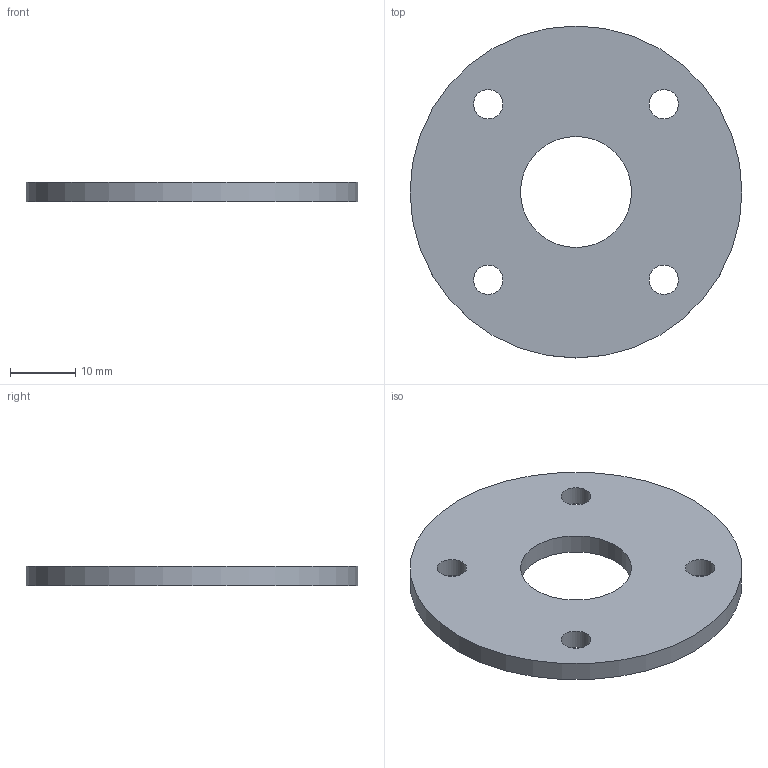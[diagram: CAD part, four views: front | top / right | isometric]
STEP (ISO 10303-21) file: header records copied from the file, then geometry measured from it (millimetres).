
FILE_DESCRIPTION(('FreeCAD Model'),'2;1');
FILE_NAME('Open CASCADE Shape Model','2026-09-19T17:54:12',('FreeCAD'),( 'FreeCAD'),'Open CASCADE STEP processor 7.8','FreeCAD','Unknown');
FILE_SCHEMA(('AUTOMOTIVE_DESIGN { 1 0 10303 214 1 1 1 1 }'));
Length unit declared in the file: millimetre
Products named in the file (1): Open CASCADE STEP translator 7.8 14
Bounding box: 50.8 x 50.8 x 3 mm (x, y, z)
Volume: 5208.7 mm3; surface area: 4281.1 mm2
Topology: 1 solids, 1 shells, 8 faces, 18 edges, 12 vertices
Faces by surface type: cylinder 6, plane 2
Full cylindrical faces by diameter (mm): 4.5 x4, 17 x1, 50.8 x1
Entity records: 264 total; most frequent: DIRECTION 48, CARTESIAN_POINT 39, ORIENTED_EDGE 36, AXIS2_PLACEMENT_3D 21, FACE_BOUND 18, EDGE_LOOP 18, EDGE_CURVE 18, VERTEX_POINT 12
